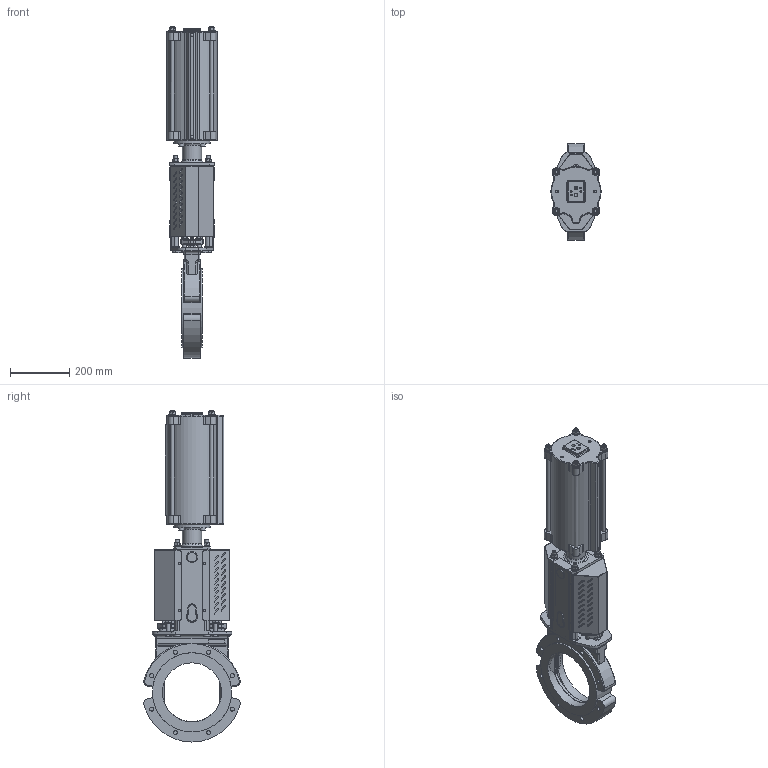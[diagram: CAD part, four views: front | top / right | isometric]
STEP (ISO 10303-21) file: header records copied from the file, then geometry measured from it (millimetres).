
FILE_DESCRIPTION(/* description */ (''),/* implementation_level */ '2;1');
FILE_NAME(/* name */ 'F:\Emir\3D-block special\WB\WB14-WFL-DN200-PN10-FRSC160-215.stp',/* time_stamp */ '2018-09-10T12:55:25+02:00',/* author */ ('emimus'),/* organization */ (''),/* preprocessor_version */ 'ST-DEVELOPER v17.2',/* originating_system */ 'Autodesk Inventor 2019',/* authorisation */ '');
FILE_SCHEMA (('CONFIG_CONTROL_DESIGN'));
Products named in the file (1): WB14-WFL-DN200-PN10-FRSC160-215_Shrinkwrap_1
Bounding box: 170 x 326.88 x 1123.9 mm (x, y, z)
Volume: 8192178.6 mm3; surface area: 1871044.9 mm2
Topology: 1 solids, 1 shells, 2494 faces, 6389 edges, 3951 vertices
Faces by surface type: plane 936, cylinder 788, bspline 261, cone 214, torus 203, sphere 92
Full cylindrical faces by diameter (mm): 3 x5, 4 x6, 4.134 x4, 4.2 x16, 4.5 x4, 4.917 x4, 8 x2, 8.376 x2, 9.5 x4, 10 x11, 10.106 x4, 11.445 x2, 12 x28, 13 x17, 13.835 x16, 15 x1, 16 x6, 17.294 x1, 17.7 x1, 18 x4, 20 x1, 24 x14, 28 x2, 30 x1, 30.1 x2, 34 x1, 35 x1, 36 x1, 36.4 x1, 38 x3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
Entity records: 86110 total; most frequent: CARTESIAN_POINT 26039, DIRECTION 12858, ORIENTED_EDGE 12682, EDGE_CURVE 6341, AXIS2_PLACEMENT_3D 5142, VERTEX_POINT 3951, EDGE_LOOP 2786, CIRCLE 2637
